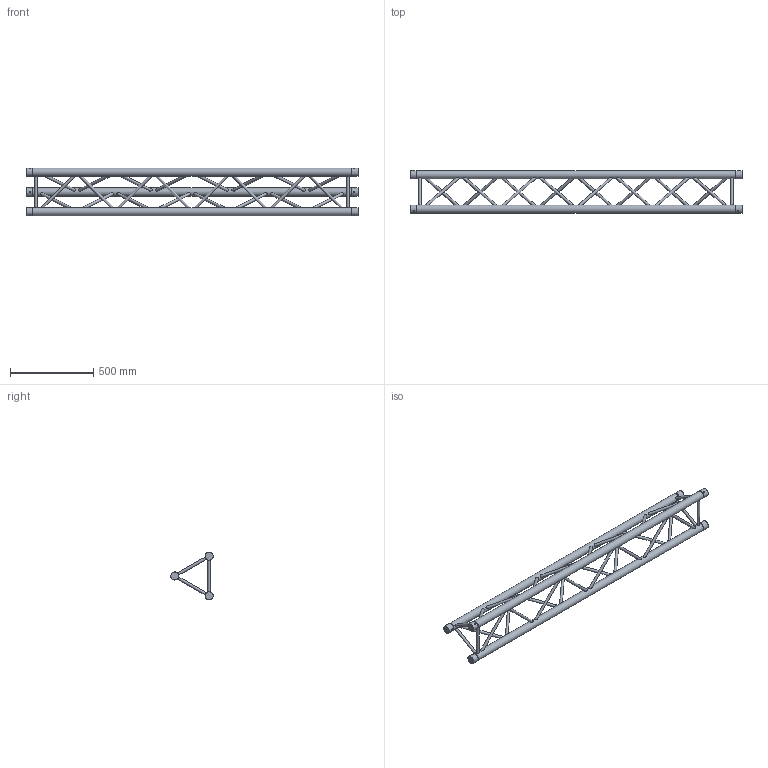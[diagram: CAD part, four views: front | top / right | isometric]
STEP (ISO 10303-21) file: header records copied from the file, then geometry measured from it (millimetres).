
FILE_DESCRIPTION(/* description */ (''),/* implementation_level */ '2;1');
FILE_NAME(/* name */ 'M:\Symbolen\STP\30-er truss\111050022.stp',/* time_stamp */ '2014-12-03T11:29:35+01:00',/* author */ ('Stephan'),/* organization */ (''),/* preprocessor_version */ 'ST-DEVELOPER v15.6',/* originating_system */ 'Autodesk Inventor 2015',/* authorisation */ '');
FILE_SCHEMA (('AUTOMOTIVE_DESIGN { 1 0 10303 214 3 1 1 }'));
Length unit declared in the file: millimetre
Products named in the file (1): 160023777
Bounding box: 2000 x 255.28 x 287.3 mm (x, y, z)
Volume: 9437594.2 mm3; surface area: 1330812.1 mm2
Topology: 3 solids, 33 shells, 207 faces, 381 edges, 240 vertices
Faces by surface type: plane 132, cylinder 69, cone 6
Full cylindrical faces by diameter (mm): 10 x6, 16 x30, 48.3 x9
Entity records: 5460 total; most frequent: CARTESIAN_POINT 1360, DIRECTION 740, ORIENTED_EDGE 672, AXIS2_PLACEMENT_3D 328, EDGE_LOOP 312, EDGE_CURVE 300, VERTEX_POINT 216, STYLED_ITEM 184
